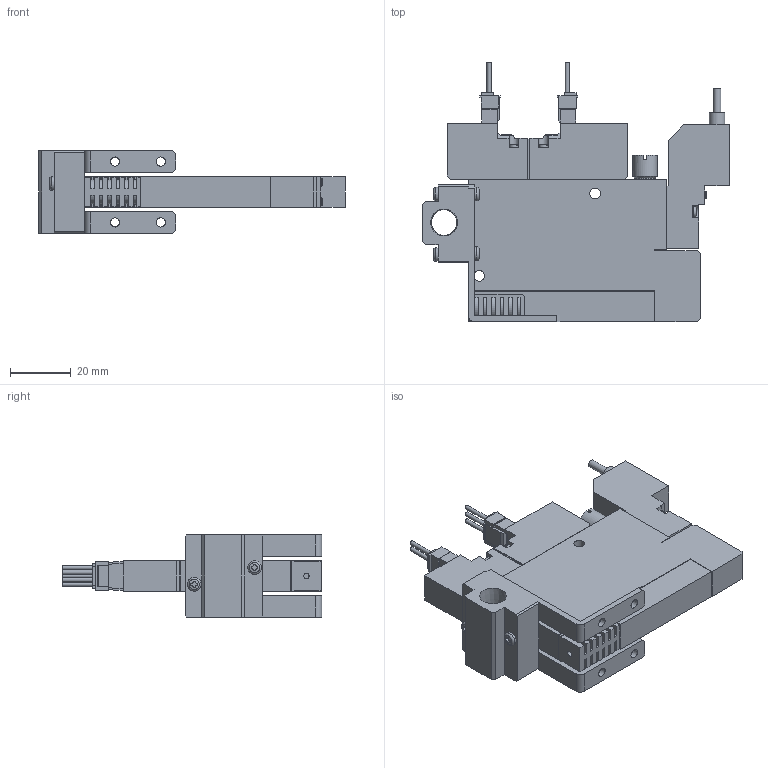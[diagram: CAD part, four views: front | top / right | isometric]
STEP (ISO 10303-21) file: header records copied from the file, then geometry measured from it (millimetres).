
FILE_DESCRIPTION(('STEP AP203'),'1');
FILE_NAME('5WS101_3D.stp','2024-09-04T06:26:14',(' '),(' '),'Spatial InterOp 3D',' ',' ');
FILE_SCHEMA(('CONFIG_CONTROL_DESIGN'));
Length unit declared in the file: millimetre
Products named in the file (5): BSC1M※※V8※5WS101; Solenoid valve W; Pressure Sensor V8; Unit-S; BaseMS10R
Assembly tree (4 placements, depth 2):
  BSC1M※※V8※5WS101
    Solenoid valve W
    Pressure Sensor V8
    Unit-S
    BaseMS10R
Bounding box: 100.5 x 85.05 x 27 mm (x, y, z)
Volume: 56000.5 mm3; surface area: 24346.1 mm2
Topology: 4 solids, 4 shells, 573 faces, 1560 edges, 1032 vertices
Faces by surface type: plane 414, cylinder 132, torus 10, cone 9, sphere 8
Full cylindrical faces by diameter (mm): 1.4 x5, 1.8 x1, 2.5 x5, 3 x8, 3.5 x6, 4 x1, 4.134 x2, 4.5 x6, 5 x1, 5.5 x1, 7 x1, 7.7 x1, 8 x1, 8.422 x1
Entity records: 18319 total; most frequent: CARTESIAN_POINT 3848, ORIENTED_EDGE 2940, DIRECTION 2833, EDGE_CURVE 1470, LINE 1101, VECTOR 1101, VERTEX_POINT 1009, AXIS2_PLACEMENT_3D 866
